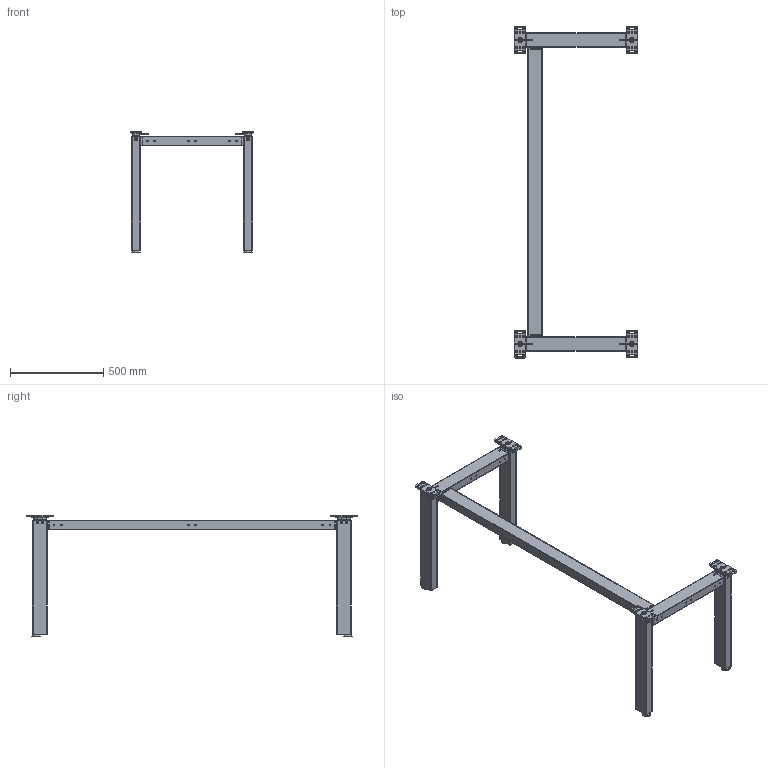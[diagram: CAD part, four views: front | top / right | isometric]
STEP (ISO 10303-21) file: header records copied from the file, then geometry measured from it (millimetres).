
FILE_DESCRIPTION(/* description */ ('Unknown'),/* implementation_level */ '2;1');
FILE_NAME(/* name */ '108.00072_02-Eingefahren',/* time_stamp */ '2022-02-11T16:58:00+01:00',/* author */ ('Unknown'),/* organization */ ('Unknown'),/* preprocessor_version */ 'ST-DEVELOPER v18.1',/* originating_system */ 'Solid Edge',/* authorisation */ 'Unknown');
FILE_SCHEMA (('AUTOMOTIVE_DESIGN {1 0 10303 214 3 1 1}'));
Length unit declared in the file: millimetre
Products named in the file (42): 108.00072; 306.00090_oa_0; 124.00004; 107.00147_oa_1; 125.00021; 115.00007_oa_2; 125.00033; 125.00022; 127.00038; 127.00034_oa_3; Aussenprofil TA 1450; 127.00035; Innenprofil TA 1450; Abschlussplatte; 127.00048; Schraube 2,9x6,4; 127.00034_2’403_2’488_Kehlnaht 1_oa_4; 113.00002_70mm; 142.00031; 142.00077; 306.00090_oa_5; 107.00147_oa_6; 115.00007_oa_7; 127.00034_oa_8; 127.00034_2’403_2’488_Kehlnaht 1_oa_9; 115.00150; 127.00365; 113.00006; 113.00006-ohne Mutter; Mutter M10; 306.00090_oa_10; 107.00147_oa_11; 115.00007_oa_12; 127.00034_oa_13; 127.00034_2’403_2’488_Kehlnaht 1_oa_14; 115.00154; 127.00373; 306.00090_oa_15; 107.00147_oa_16; 115.00007_oa_17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
Assembly tree (119 placements, depth 4):
  108.00072
    306.00090_oa_0
      124.00004
      107.00147_oa_1
        125.00021
        115.00007_oa_2
        125.00033
        125.00022
      127.00038
      127.00034_oa_3
        Aussenprofil TA 1450
        127.00035
        Innenprofil TA 1450
        Abschlussplatte
        127.00048
        Schraube 2,9x6,4  x6
        127.00034_2’403_2’488_Kehlnaht 1_oa_4
      113.00002_70mm
      142.00031
      142.00077  x4
    306.00090_oa_5
      124.00004
      107.00147_oa_6
        125.00021
        115.00007_oa_7
        125.00033
        125.00022
      127.00038
      127.00034_oa_8
        Aussenprofil TA 1450
        127.00035
        Innenprofil TA 1450
        Abschlussplatte
        127.00048
        Schraube 2,9x6,4  x6
        127.00034_2’403_2’488_Kehlnaht 1_oa_9
      113.00002_70mm
      142.00031
      142.00077  x4
    115.00150  x2
      127.00365
    113.00006  x4
      113.00006-ohne Mutter
      Mutter M10
    306.00090_oa_10
      124.00004
      107.00147_oa_11
        125.00021
        115.00007_oa_12
        125.00033
        125.00022
      127.00038
      127.00034_oa_13
        Aussenprofil TA 1450
        127.00035
        Innenprofil TA 1450
        Abschlussplatte
        127.00048
        Schraube 2,9x6,4  x6
        127.00034_2’403_2’488_Kehlnaht 1_oa_14
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Bounding box: 660 x 1780 x 653 mm (x, y, z)
Volume: 3809861.9 mm3; surface area: 3577860.4 mm2
Topology: 115 solids, 115 shells, 4318 faces, 10244 edges, 6180 vertices
Faces by surface type: cylinder 1660, plane 1446, bspline 516, cone 344, torus 304, sphere 48
Full cylindrical faces by diameter (mm): 1.8 x8, 2.2 x4, 2.5 x24, 2.78 x4, 2.9 x24, 3.5 x4, 4 x4, 4.1 x8, 4.2 x4, 4.9 x8, 4.917 x102, 5.8 x32, 6 x16, 6.5 x28, 6.647 x12, 6.8 x24, 6.917 x8, 7 x16, 8 x12, 8.376 x4, 9 x58, 9.5 x4, 10 x20, 12 x4, 12.5 x4, 13 x24, 13.5 x4, 13.9 x8, 15 x4, 19 x4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
Entity records: 35151 total; most frequent: CARTESIAN_POINT 7872, DIRECTION 4873, ORIENTED_EDGE 4306, EDGE_CURVE 2153, AXIS2_PLACEMENT_3D 1978, FACE_BOUND 1569, EDGE_LOOP 1568, VERTEX_POINT 1470
